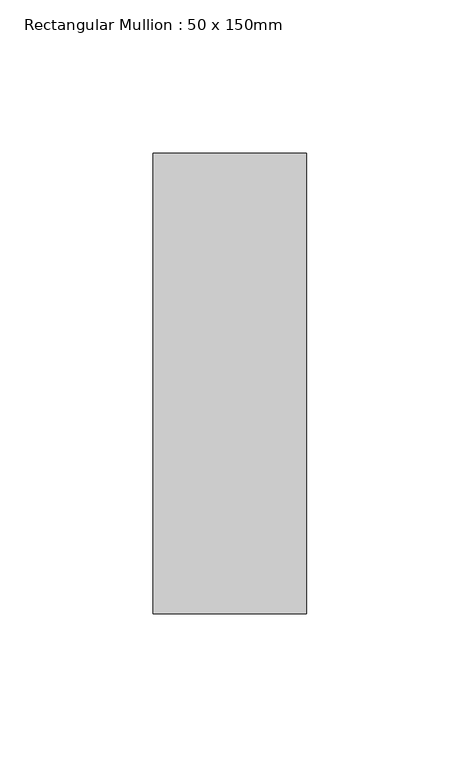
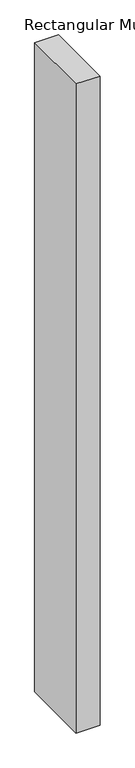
"""IFC4 building model written with IfcOpenShell, lengths in millimetres: member geometry, Rectangular Mullion : 50 x 150mm."""

from ifc_helpers import new_model, si_unit, frame, origin, place, context, project, spatial, polyline, outline, extrude, source, transform, mapped, element, save


def rectangular_mullion_50_x_150mm_f23b52bf(model_context):
    return source(origin(), model_context, "Body", "SweptSolid", [
        extrude(outline(polyline([(0.0, 75.0), (0.0, -75.0), (-50.0, -75.0), (-50.0, 75.0), (0.0, 75.0)])), frame((0.0, 0.0, -1436.1111109), z_axis=(0.0, 0.0, 1.0), x_axis=(1.0, 0.0, 0.0)), (0.0, 0.0, 1.0), 1436.1111109),
    ])


if __name__ == "__main__":
    model = new_model("IFC4")
    model_context = context("Model", 3, world=origin())
    ifc_project = project(units=[si_unit("LENGTHUNIT", "METRE", prefix="MILLI")], contexts=[model_context])
    site = spatial("IfcSite", under=ifc_project)
    building = spatial("IfcBuilding", under=site)
    placement = place(None, origin())
    rectangular_mullion_50_x_150mm_shape = rectangular_mullion_50_x_150mm_f23b52bf(model_context)
    element("IfcMember", 1, ObjectType="Rectangular Mullion : 50 x 150mm", at=placement, inside=building, context=model_context, shape_type="MappedRepresentation", body=[
        mapped(rectangular_mullion_50_x_150mm_shape, transform((0.0, 0.0, 0.0), x_axis=(1.0, 0.0, 0.0), y_axis=(0.0, 1.0, 0.0), z_axis=(0.0, 0.0, 1.0))),
    ])
    save(model, "model.ifc")
